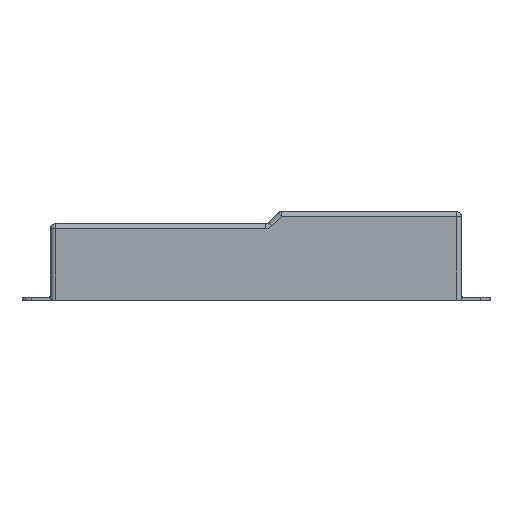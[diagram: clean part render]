
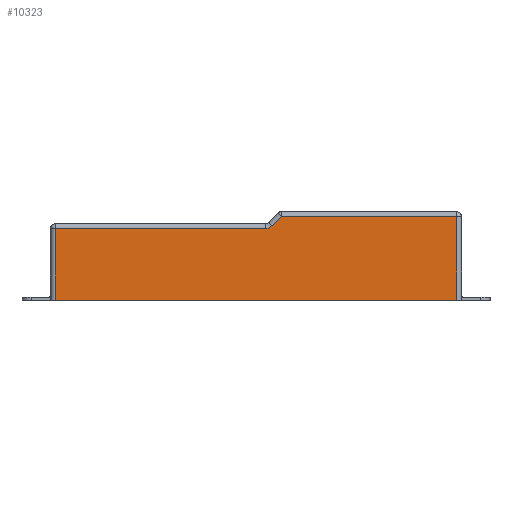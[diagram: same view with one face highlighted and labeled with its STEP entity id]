
A CAD part, left-side view. The second image highlights one B-rep face of the part: STEP entity #10323.
In plain terms, the highlighted planar face has unit normal (-1, 0, 0).
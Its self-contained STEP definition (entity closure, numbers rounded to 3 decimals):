
#2890=DIRECTION('',(0.,0.,1.));
#2891=VECTOR('',#2890,26.5);
#2892=CARTESIAN_POINT('',(-113.,-63.5,-15.998));
#2893=LINE('',#2892,#2891);
#2898=CARTESIAN_POINT('',(-113.,-2.964,9.702));
#2899=DIRECTION('',(-1.,0.,0.));
#2900=DIRECTION('',(0.,0.,-1.));
#2901=AXIS2_PLACEMENT_3D('',#2898,#2899,#2900);
#2903=DIRECTION('',(0.,-0.707,0.707));
#2904=VECTOR('',#2903,4.131);
#2905=CARTESIAN_POINT('',(-113.,-5.086,7.581));
#2906=LINE('',#2905,#2904);
#2907=DIRECTION('',(0.,1.,0.));
#2908=VECTOR('',#2907,127.);
#2909=CARTESIAN_POINT('',(-113.,-63.5,-15.998));
#2910=LINE('',#2909,#2908);
#2915=DIRECTION('',(0.,0.,-1.));
#2916=VECTOR('',#2915,22.7);
#2917=CARTESIAN_POINT('',(-113.,63.5,6.702));
#2918=LINE('',#2917,#2916);
#2965=DIRECTION('',(0.,1.,0.));
#2966=VECTOR('',#2965,66.464);
#2967=CARTESIAN_POINT('',(-113.,-2.964,6.702));
#2968=LINE('',#2967,#2966);
#3796=DIRECTION('',(0.,1.,0.));
#3797=VECTOR('',#3796,55.493);
#3798=CARTESIAN_POINT('',(-113.,-63.5,10.502));
#3799=LINE('',#3798,#3797);
#6023=CARTESIAN_POINT('',(-113.,63.5,-15.998));
#6024=VERTEX_POINT('',#6023);
#6025=CARTESIAN_POINT('',(-113.,-63.5,-15.998));
#6026=VERTEX_POINT('',#6025);
#7263=CARTESIAN_POINT('',(-113.,-63.5,10.502));
#7264=VERTEX_POINT('',#7263);
#7265=CARTESIAN_POINT('',(-113.,63.5,6.702));
#7266=VERTEX_POINT('',#7265);
#7267=CARTESIAN_POINT('',(-113.,-2.964,6.702));
#7268=VERTEX_POINT('',#7267);
#7269=CARTESIAN_POINT('',(-113.,-5.086,7.581));
#7270=VERTEX_POINT('',#7269);
#7271=CARTESIAN_POINT('',(-113.,-8.007,10.502));
#7272=VERTEX_POINT('',#7271);
#10304=CARTESIAN_POINT('',(-113.,0.,0.));
#10305=DIRECTION('',(-1.,0.,0.));
#10306=DIRECTION('',(0.,-1.,0.));
#10307=AXIS2_PLACEMENT_3D('',#10304,#10305,#10306);
#10308=PLANE('',#10307);
#10310=ORIENTED_EDGE('',*,*,#10309,.F.);
#10312=ORIENTED_EDGE('',*,*,#10311,.F.);
#10314=ORIENTED_EDGE('',*,*,#10313,.T.);
#10316=ORIENTED_EDGE('',*,*,#10315,.T.);
#10318=ORIENTED_EDGE('',*,*,#10317,.F.);
#10319=ORIENTED_EDGE('',*,*,#10297,.F.);
#10320=ORIENTED_EDGE('',*,*,#8551,.T.);
#10321=EDGE_LOOP('',(#10310,#10312,#10314,#10316,#10318,#10319,#10320));
#10322=FACE_OUTER_BOUND('',#10321,.F.);
#2902=CIRCLE('',#2901,3.);
#8551=EDGE_CURVE('',#6026,#6024,#2910,.T.);
#10297=EDGE_CURVE('',#6026,#7264,#2893,.T.);
#10309=EDGE_CURVE('',#7266,#6024,#2918,.T.);
#10311=EDGE_CURVE('',#7268,#7266,#2968,.T.);
#10313=EDGE_CURVE('',#7268,#7270,#2902,.T.);
#10315=EDGE_CURVE('',#7270,#7272,#2906,.T.);
#10317=EDGE_CURVE('',#7264,#7272,#3799,.T.);
#10323=ADVANCED_FACE('',(#10322),#10308,.T.);
